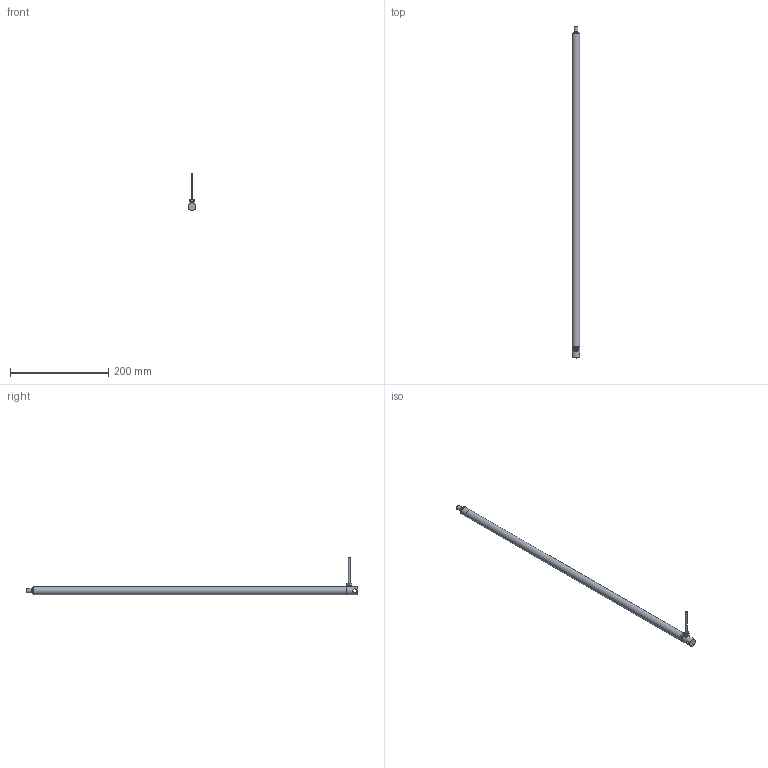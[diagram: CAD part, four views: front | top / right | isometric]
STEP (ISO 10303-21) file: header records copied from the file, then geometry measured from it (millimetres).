
FILE_DESCRIPTION(/* description */ ('Unknown'),/* implementation_level */ '2;1');
FILE_NAME(/* name */ '107.00076 Zylinder CE 1460_eingefahren',/* time_stamp */ '2018-05-18T17:13:48+02:00',/* author */ ('Unknown'),/* organization */ ('Unknown'),/* preprocessor_version */ 'ST-DEVELOPER v16.7',/* originating_system */ 'DEX',/* authorisation */ $);
FILE_SCHEMA (('AUTOMOTIVE_DESIGN {1 0 10303 214 3 1 1}'));
Length unit declared in the file: millimetre
Products named in the file (9): 107.00076; 121.00006; 142.00021; 125.00021; 115.00001_oa_0; 125.00034; 120.00026; 122.00001; 113.00002_70mm
Assembly tree (8 placements, depth 2):
  107.00076
    121.00006
    142.00021
    125.00021
    115.00001_oa_0
    125.00034
    120.00026
    122.00001
    113.00002_70mm
Bounding box: 16 x 676 x 76 mm (x, y, z)
Volume: 107134.9 mm3; surface area: 90333.9 mm2
Topology: 7 solids, 7 shells, 86 faces, 182 edges, 116 vertices
Faces by surface type: plane 29, cylinder 28, cone 23, torus 5, sphere 1
Full cylindrical faces by diameter (mm): 2.2 x1, 3 x1, 3.5 x1, 4 x1, 4.1 x1, 4.2 x1, 6 x1, 6.917 x2, 7.763 x2, 8 x5, 8.1 x3, 9 x1, 12 x2, 13.9 x2, 14 x2, 16 x2
Entity records: 2678 total; most frequent: CARTESIAN_POINT 430, DIRECTION 356, ORIENTED_EDGE 220, AXIS2_PLACEMENT_3D 169, FACE_BOUND 161, EDGE_LOOP 159, EDGE_CURVE 110, VERTEX_POINT 99
